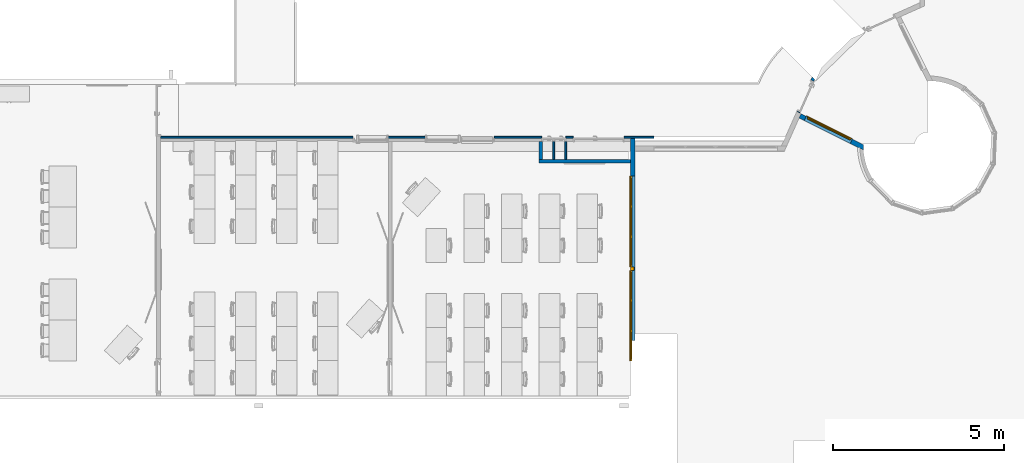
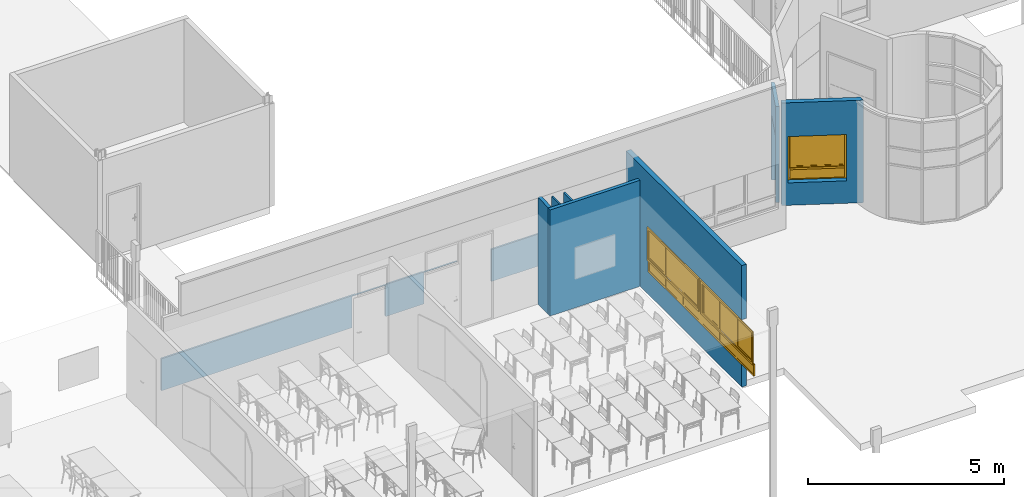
# One storey, part 21 of 44: 8 walls, 2 windows, 11 openings.
"""IFC2X3 building model written with IfcOpenShell, lengths in centimetres."""

from ifc_helpers import new_model, entity, si_unit, converted_unit, derived_unit, direction, frame, frame_2d, origin, origin_2d_with_axis, place, context, subcontext, project, spatial, polyline, circle_curve, parameter, trimmed, segment, composite_curve, rectangle, outline, extrude, clip, halfspace, faceted_brep, source, transform, mapped, material, layer, layer_set, layer_usage, type_object, type_shapes, element, fill, save


model = new_model("IFC2X3")

# Units and contexts
model_context = context("Model", 3, precision=0.001, world=origin(), true_north=direction((6.12303176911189e-17, 1.0)))
body_context = subcontext(model_context, "Body", "Model", "MODEL_VIEW")
ifc_project = project(units=[si_unit("LENGTHUNIT", "METRE", prefix="CENTI"), si_unit("AREAUNIT", "SQUARE_METRE"), si_unit("VOLUMEUNIT", "CUBIC_METRE"), converted_unit("PLANEANGLEUNIT", "DEGREE", entity("IfcRatioMeasure", 0.0174532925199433), si_unit("PLANEANGLEUNIT", "RADIAN"), dimensions=[0, 0, 0, 0, 0, 0, 0]), si_unit("MASSUNIT", "GRAM", prefix="KILO"), si_unit("TIMEUNIT", "SECOND"), si_unit("FREQUENCYUNIT", "HERTZ"), si_unit("THERMODYNAMICTEMPERATUREUNIT", "DEGREE_CELSIUS"), derived_unit("THERMALTRANSMITTANCEUNIT", [(si_unit("MASSUNIT", "GRAM", prefix="KILO"), 1), (si_unit("THERMODYNAMICTEMPERATUREUNIT", "KELVIN"), -1), (si_unit("TIMEUNIT", "SECOND"), -3)]), derived_unit("VOLUMETRICFLOWRATEUNIT", [(si_unit("LENGTHUNIT", "METRE"), 3), (si_unit("TIMEUNIT", "SECOND"), -1)]), si_unit("ELECTRICCURRENTUNIT", "AMPERE"), si_unit("ELECTRICVOLTAGEUNIT", "VOLT"), si_unit("POWERUNIT", "WATT"), si_unit("FORCEUNIT", "NEWTON", prefix="KILO"), si_unit("ILLUMINANCEUNIT", "LUX"), si_unit("LUMINOUSFLUXUNIT", "LUMEN"), si_unit("LUMINOUSINTENSITYUNIT", "CANDELA"), derived_unit("USERDEFINED", [(si_unit("MASSUNIT", "GRAM", prefix="KILO"), -1), (si_unit("LENGTHUNIT", "METRE"), -2), (si_unit("TIMEUNIT", "SECOND"), 3), (si_unit("LUMINOUSFLUXUNIT", "LUMEN"), 1)]), derived_unit("LINEARVELOCITYUNIT", [(si_unit("LENGTHUNIT", "METRE"), 1), (si_unit("TIMEUNIT", "SECOND"), -1)]), si_unit("PRESSUREUNIT", "PASCAL"), derived_unit("USERDEFINED", [(si_unit("LENGTHUNIT", "METRE"), -2), (si_unit("MASSUNIT", "GRAM", prefix="KILO"), 1), (si_unit("TIMEUNIT", "SECOND"), -2)])], contexts=[model_context])

# Site, building, storey
site_placement = place(None, frame((8.62739174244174, -249.285249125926, 0.0)))
site = spatial("IfcSite", under=ifc_project, at=site_placement, Name="Default", CompositionType="ELEMENT")
building_placement = place(site_placement, origin())
building = spatial("IfcBuilding", under=site, at=building_placement, CompositionType="ELEMENT")
storey_placement = place(building_placement, frame((0.0, 0.0, 343.0)))
storey = spatial("IfcBuildingStorey", under=building, at=storey_placement, Name="R+1", CompositionType="ELEMENT", Elevation=343.0)

# Wall, opening, window
ifc_material_1 = material(Name="Tôle/Doublage")
ifc_layer_1 = layer(ifc_material_1, 4.0)
ifc_material_2 = material(Name="Laine minérale")
ifc_layer_2 = layer(ifc_material_2, 8.0)
ifc_material_3 = material(Name="Plâtre")
ifc_layer_3 = layer(ifc_material_3, 2.0)
ifc_layer_set_1 = layer_set([ifc_layer_1, ifc_layer_2, ifc_layer_3], Name="Mur de base:MET 4 + ISO 8 + PLA 2")
wall_type_1 = type_object("IfcWallType", Name="Mur de base:MET 4 + ISO 8 + PLA 2", PredefinedType="STANDARD", material=ifc_layer_set_1)
wall_1_placement = place(storey_placement, frame((2181.90482780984, 775.0, 0.0), z_axis=(0.0, 0.0, 1.0), x_axis=(0.0, -1.0, 0.0)))
wall_1 = element("IfcWall", 1, at=wall_1_placement, inside=storey, type_object=wall_type_1, Name="Mur de base:MET 4 + ISO 8 + PLA 2", ObjectType="Mur de base:MET 4 + ISO 8 + PLA 2", context=body_context, shape_type="Brep", body=[
    faceted_brep([(111.019791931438, -7.0, 70.0), (111.019791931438, -7.0, 210.0), (591.019791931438, -7.0, 210.0), (591.019791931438, -7.0, 379.0), (0.0, -7.0, 379.0), (0.0, -7.0, 343.0), (0.0, -7.0, 0.0), (10.0, -7.0, 0.0), (62.0, -7.0, 0.0), (72.0, -7.0, 0.0), (591.019791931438, -7.0, 0.0), (591.019791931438, -7.0, 62.1808437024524), (591.019791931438, -7.0, 62.3222650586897), (591.019791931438, -7.0, 66.8934406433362), (591.019791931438, -7.0, 67.0), (591.019791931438, -7.0, 70.0), (111.019791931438, 7.0, 210.0), (111.019791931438, 7.0, 70.0), (591.019791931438, 7.0, 70.0), (591.019791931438, 7.0, 67.0), (591.019791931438, 7.0, 66.8934406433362), (591.019791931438, 7.0, 62.3222650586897), (591.019791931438, 7.0, 62.1808437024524), (591.019791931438, 7.0, 0.0), (37.0197919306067, 7.0, 0.0), (23.0197919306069, 7.0, 0.0), (0.0, 7.0, 0.0), (0.0, 7.0, 379.0), (591.019791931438, 7.0, 379.0), (591.019791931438, 7.0, 210.0)], [[[0, 1, 2, 3, 4, 5, 6, 7, 8, 9, 10, 11, 12, 13, 14, 15]], [[16, 17, 18, 19, 20, 21, 22, 23, 24, 25, 26, 27, 28, 29]], [[6, 26, 25, 24, 23, 10, 9, 8, 7]], [[27, 4, 3, 28]], [[15, 14, 13, 12, 11, 10, 23, 22, 21, 20, 19, 18]], [[0, 17, 16, 1]], [[1, 16, 29, 2]], [[17, 0, 15, 18]], [[6, 5, 4, 27, 26]], [[3, 2, 29, 28]]]),
])
opening_1_placement = place(wall_1_placement, frame((111.019791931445, -7.0, 70.0)))
opening_1 = element("IfcOpeningElement", 2, at=opening_1_placement, cuts=wall_1, Name="2x2S_90x115-F90x115-A_40:2x2S_90x115-F90x115-A_40:1", ObjectType="Opening", context=body_context, shape_type="SweptSolid", body=[
    extrude(rectangle(XDim=140.0, YDim=540.0, at=frame_2d((69.9999999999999, 270.0), x_axis=(1.0, 0.0))), frame((0.0, 0.0, 0.0), z_axis=(0.0, 1.0, 0.0), x_axis=(0.0, 0.0, 1.0)), (0.0, 0.0, 1.0), 14.0),
])
ifc_material_4 = material(Name="Verre")
window_style_1 = type_object("IfcWindowStyle", Name="2x2S_90x115-F90x115-A_40", ConstructionType="NOTDEFINED", OperationType="NOTDEFINED", ParameterTakesPrecedence=False, Sizeable=False, material=ifc_material_4)
shared_shape_1 = source(origin(), body_context, "Body", "SweptSolid", [
    extrude(rectangle(XDim=2.0, YDim=79.3333333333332, at=frame_2d((-4.44089209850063e-16, 0.0), x_axis=(1.0, 0.0))), frame((494.333333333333, 2.0, 6.0), z_axis=(0.0, 0.0, 1.0), x_axis=(0.0, 1.0, 0.0)), (0.0, 0.0, 1.0), 29.9999999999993),
    extrude(rectangle(XDim=2.0, YDim=79.3333333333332, at=frame_2d((-4.44089209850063e-16, 0.0), x_axis=(1.0, 0.0))), frame((45.6666666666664, 2.0, 6.0), z_axis=(0.0, 0.0, 1.0), x_axis=(0.0, 1.0, 0.0)), (0.0, 0.0, 1.0), 29.9999999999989),
    extrude(rectangle(XDim=2.0, YDim=82.3333333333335, at=frame_2d((-4.44089209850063e-16, 0.0), x_axis=(1.0, 0.0))), frame((132.5, 2.0, 6.0), z_axis=(0.0, 0.0, 1.0), x_axis=(0.0, 1.0, 0.0)), (0.0, 0.0, 1.0), 29.9999999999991),
    extrude(rectangle(XDim=2.0, YDim=79.3333333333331, at=frame_2d((-4.44089209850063e-16, 0.0), x_axis=(1.0, 0.0))), frame((219.333333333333, 2.0, 6.0), z_axis=(0.0, 0.0, 1.0), x_axis=(0.0, 1.0, 0.0)), (0.0, 0.0, 1.0), 29.9999999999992),
    extrude(rectangle(XDim=2.0, YDim=79.3333333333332, at=frame_2d((-4.44089209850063e-16, 0.0), x_axis=(1.0, 0.0))), frame((320.666666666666, 2.0, 6.0), z_axis=(0.0, 0.0, 1.0), x_axis=(0.0, 1.0, 0.0)), (0.0, 0.0, 1.0), 29.9999999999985),
    extrude(rectangle(XDim=2.0, YDim=82.3333333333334, at=frame_2d((-4.44089209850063e-16, 0.0), x_axis=(1.0, 0.0))), frame((407.5, 2.0, 6.0), z_axis=(0.0, 0.0, 1.0), x_axis=(0.0, 1.0, 0.0)), (0.0, 0.0, 1.0), 29.9999999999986),
    extrude(outline(polyline([(-132.5, -15.7499999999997), (-126.5, -15.7499999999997), (-126.5, 14.2499999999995), (-47.1666666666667, 14.2499999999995), (-47.1666666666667, -15.7499999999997), (-41.1666666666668, -15.7499999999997), (-41.1666666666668, 14.2499999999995), (41.1666666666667, 14.2499999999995), (41.1666666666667, -15.7499999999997), (47.1666666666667, -15.7499999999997), (47.1666666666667, 14.2499999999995), (126.5, 14.2499999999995), (126.5, -15.7499999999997), (132.5, -15.7499999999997), (132.5, 20.2500000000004), (-132.5, 20.2500000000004), (-132.5, -15.7499999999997)])), frame((407.5, 0.0, 20.2499999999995), z_axis=(0.0, 1.0, 0.0), x_axis=(1.0, 0.0, 0.0)), (0.0, 0.0, 1.0), 5.0),
    extrude(outline(polyline([(-132.5, -15.7499999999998), (-126.5, -15.7499999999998), (-126.5, 14.2499999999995), (-47.1666666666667, 14.2499999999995), (-47.1666666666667, -15.7499999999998), (-41.1666666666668, -15.7499999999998), (-41.1666666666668, 14.2499999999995), (41.1666666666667, 14.2499999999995), (41.1666666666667, -15.7499999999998), (47.1666666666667, -15.7499999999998), (47.1666666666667, 14.2499999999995), (126.5, 14.2499999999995), (126.5, -15.7499999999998), (132.5, -15.7499999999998), (132.5, 20.2500000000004), (-132.5, 20.2500000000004), (-132.5, -15.7499999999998)])), frame((132.5, 0.0, 20.2500000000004), z_axis=(0.0, 1.0, 0.0), x_axis=(1.0, 0.0, 0.0)), (0.0, 0.0, 1.0), 5.0),
    extrude(rectangle(XDim=10.0, YDim=10.0, at=origin_2d_with_axis()), frame((270.0, 5.0, 0.0), z_axis=(0.0, 0.0, 1.0), x_axis=(0.0, 1.0, 0.0)), (0.0, 0.0, 1.0), 140.0),
    extrude(rectangle(XDim=2.0, YDim=71.3333333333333, at=frame_2d((-4.44089209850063e-16, -2.8421709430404e-14), x_axis=(1.0, 0.0))), frame((494.333333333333, 2.0, 46.0), z_axis=(0.0, 0.0, 1.0), x_axis=(0.0, 1.0, 0.0)), (0.0, 0.0, 1.0), 83.9999999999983),
    extrude(rectangle(XDim=2.0, YDim=71.3333333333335, at=frame_2d((-4.44089209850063e-16, 0.0), x_axis=(1.0, 0.0))), frame((45.6666666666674, 2.0, 46.0), z_axis=(0.0, 0.0, 1.0), x_axis=(0.0, 1.0, 0.0)), (0.0, 0.0, 1.0), 83.9999999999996),
    extrude(rectangle(XDim=2.0, YDim=82.3333333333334, at=frame_2d((-4.44089209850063e-16, 1.4210854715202e-14), x_axis=(1.0, 0.0))), frame((132.5, 2.0, 42.0), z_axis=(0.0, 0.0, 1.0), x_axis=(0.0, 1.0, 0.0)), (0.0, 0.0, 1.0), 91.9999999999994),
    extrude(rectangle(XDim=2.0, YDim=71.3333333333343, at=frame_2d((-4.44089209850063e-16, 0.0), x_axis=(1.0, 0.0))), frame((219.333333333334, 2.0, 46.0), z_axis=(0.0, 0.0, 1.0), x_axis=(0.0, 1.0, 0.0)), (0.0, 0.0, 1.0), 83.9999999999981),
    extrude(rectangle(XDim=2.0, YDim=71.3333333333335, at=frame_2d((-4.44089209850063e-16, 0.0), x_axis=(1.0, 0.0))), frame((320.666666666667, 2.0, 46.0), z_axis=(0.0, 0.0, 1.0), x_axis=(0.0, 1.0, 0.0)), (0.0, 0.0, 1.0), 83.9999999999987),
    extrude(rectangle(XDim=2.0, YDim=82.3333333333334, at=frame_2d((-4.44089209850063e-16, 0.0), x_axis=(1.0, 0.0))), frame((407.5, 2.0, 42.0), z_axis=(0.0, 0.0, 1.0), x_axis=(0.0, 1.0, 0.0)), (0.0, 0.0, 1.0), 91.9999999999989),
    extrude(outline(polyline([(-46.0, -39.6666666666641), (46.0, -39.6666666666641), (46.0, 39.6666666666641), (-46.0, 39.6666666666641), (-46.0, -39.6666666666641)]), holes=[polyline([(42.0, -35.6666666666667), (-42.0, -35.6666666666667), (-42.0, 35.6666666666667), (42.0, 35.6666666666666), (42.0, -35.6666666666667)])]), frame((45.6666666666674, 0.0, 88.0), z_axis=(0.0, 1.0, 0.0), x_axis=(0.0, 0.0, -1.0)), (0.0, 0.0, 1.0), 4.0),
    extrude(outline(polyline([(-46.0, -39.6666666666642), (46.0, -39.6666666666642), (46.0, 39.6666666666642), (-46.0, 39.6666666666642), (-46.0, -39.6666666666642)]), holes=[polyline([(42.0, -35.6666666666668), (-42.0, -35.6666666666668), (-42.0, 35.6666666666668), (42.0, 35.6666666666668), (42.0, -35.6666666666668)])]), frame((219.333333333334, 0.0, 88.0), z_axis=(0.0, 1.0, 0.0), x_axis=(0.0, 0.0, -1.0)), (0.0, 0.0, 1.0), 4.0),
    extrude(outline(polyline([(-46.0, -39.6666666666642), (46.0, -39.6666666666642), (46.0, 39.6666666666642), (-46.0, 39.6666666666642), (-46.0, -39.6666666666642)]), holes=[polyline([(42.0, -35.6666666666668), (-42.0, -35.6666666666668), (-42.0, 35.6666666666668), (42.0, 35.6666666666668), (42.0, -35.6666666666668)])]), frame((320.666666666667, 0.0, 88.0), z_axis=(0.0, 1.0, 0.0), x_axis=(0.0, 0.0, -1.0)), (0.0, 0.0, 1.0), 4.0),
    extrude(outline(polyline([(-46.0, -39.6666666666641), (46.0, -39.6666666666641), (46.0, 39.6666666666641), (-46.0, 39.6666666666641), (-46.0, -39.6666666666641)]), holes=[polyline([(42.0, -35.6666666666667), (-42.0, -35.6666666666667), (-42.0, 35.6666666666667), (42.0, 35.6666666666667), (42.0, -35.6666666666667)])]), frame((494.333333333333, 0.0, 88.0), z_axis=(0.0, 1.0, 0.0), x_axis=(0.0, 0.0, -1.0)), (0.0, 0.0, 1.0), 4.0),
    extrude(rectangle(XDim=5.0, YDim=6.00000000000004, at=origin_2d_with_axis()), frame((451.666666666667, 2.5, 42.0), z_axis=(0.0, 0.0, 1.0), x_axis=(0.0, 1.0, 0.0)), (0.0, 0.0, 1.0), 91.9999999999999),
    extrude(rectangle(XDim=5.0, YDim=5.99999999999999, at=frame_2d((0.0, -2.70894418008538e-14), x_axis=(1.0, 0.0))), frame((88.3333333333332, 2.5, 42.0), z_axis=(0.0, 0.0, 1.0), x_axis=(0.0, 1.0, 0.0)), (0.0, 0.0, 1.0), 91.9999999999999),
    extrude(rectangle(XDim=5.0, YDim=5.99999999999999, at=origin_2d_with_axis()), frame((176.666666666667, 2.5, 42.0), z_axis=(0.0, 0.0, 1.0), x_axis=(0.0, 1.0, 0.0)), (0.0, 0.0, 1.0), 91.9999999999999),
    extrude(rectangle(XDim=5.0, YDim=5.99999999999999, at=origin_2d_with_axis()), frame((363.333333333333, 2.5, 42.0), z_axis=(0.0, 0.0, 1.0), x_axis=(0.0, 1.0, 0.0)), (0.0, 0.0, 1.0), 91.9999999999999),
    extrude(outline(polyline([(-52.0, -132.5), (52.0, -132.5), (52.0, 132.5), (-52.0, 132.5), (-52.0, -132.5)]), holes=[polyline([(46.0, -126.5), (-46.0, -126.5), (-46.0, 126.5), (46.0, 126.5), (46.0, -126.5)])]), frame((407.5, -3.0, 88.0), z_axis=(0.0, 1.0, 0.0), x_axis=(0.0, 0.0, -1.0)), (0.0, 0.0, 1.0), 3.0),
    extrude(outline(polyline([(-52.0, -132.5), (52.0, -132.5), (52.0, 132.5), (-52.0, 132.5), (-52.0, -132.5)]), holes=[polyline([(46.0, -126.5), (-46.0, -126.5), (-46.0, 126.5), (46.0, 126.5), (46.0, -126.5)])]), frame((132.5, -3.0, 88.0), z_axis=(0.0, 1.0, 0.0), x_axis=(0.0, 0.0, -1.0)), (0.0, 0.0, 1.0), 3.0),
])
type_shapes(window_style_1, [shared_shape_1])
window_1_placement = place(opening_1_placement, origin())
window_1 = element("IfcWindow", 3, at=window_1_placement, inside=storey, type_object=window_style_1, material=ifc_material_4, Name="2x2S_90x115-F90x115-A_40:2x2S_90x115-F90x115-A_40", ObjectType="2x2S_90x115-F90x115-A_40", OverallHeight=140.0, OverallWidth=540.0, context=body_context, shape_type="MappedRepresentation", body=[
    mapped(shared_shape_1, transform((0.0, 0.0, 0.0), scale=1.0)),
])
fill(opening_1, window_1)

ifc_layer_usage_1 = layer_usage(ifc_layer_set_1, "AXIS2", "POSITIVE", -7.0)
wall_2_placement = place(storey_placement, frame((2670.0787936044, 840.249389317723, 0.0), z_axis=(0.0, 0.0, 1.0), x_axis=(0.895203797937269, -0.445656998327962, 0.0)))
wall_2 = element("IfcWallStandardCase", 4, at=wall_2_placement, inside=storey, type_object=wall_type_1, material=ifc_layer_usage_1, Name="Mur de base:MET 4 + ISO 8 + PLA 2", ObjectType="Mur de base:MET 4 + ISO 8 + PLA 2", context=body_context, shape_type="SweptSolid", body=[
    extrude(outline(composite_curve([segment(trimmed(circle_curve(frame_2d((373.130210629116, 88.9739028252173), x_axis=(0.895203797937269, 0.445656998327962)), 188.999999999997), [parameter(179.23876926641)], [parameter(184.051914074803)], True, "PARAMETER"), False, "CONTINUOUS"), segment(polyline([(202.832590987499, 7.0), (0.0, 7.0)]), True, "CONTINUOUS"), segment(polyline([(0.0, 7.0), (0.602778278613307, -7.0)]), True, "CONTINUOUS"), segment(polyline([(0.602778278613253, -7.0), (194.250334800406, -7.0)]), True, "CONTINUOUS"), segment(polyline([(194.250334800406, -7.0), (210.311262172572, -7.0)]), True, "CONTINUOUS")], self_intersect=False)), origin(), (0.0, 0.0, 1.0), 320.0),
])
opening_2_placement = place(wall_2_placement, frame((167.488736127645, 7.0, 70.0)))
opening_2 = element("IfcOpeningElement", 5, at=opening_2_placement, cuts=wall_2, Name="S_150x115_A_40:S_150x115_A_40:1", ObjectType="Opening", context=body_context, shape_type="SweptSolid", body=[
    extrude(rectangle(XDim=144.5, YDim=150.0, at=frame_2d((72.25, 75.0), x_axis=(1.0, 0.0))), frame((0.0, 0.0, 0.0), z_axis=(0.0, -1.0, 0.0), x_axis=(0.0, 0.0, 1.0)), (0.0, 0.0, 1.0), 14.0),
])
window_style_2 = type_object("IfcWindowStyle", Name="S_150x115_A_40", ConstructionType="NOTDEFINED", OperationType="NOTDEFINED", ParameterTakesPrecedence=False, Sizeable=False, material=ifc_material_4)
shared_shape_2 = source(origin(), body_context, "Body", "SweptSolid", [
    extrude(rectangle(XDim=2.0, YDim=140.0, at=frame_2d((-4.44089209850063e-16, 0.0), x_axis=(1.0, 0.0))), frame((75.0, 2.0, 5.0), z_axis=(0.0, 0.0, 1.0), x_axis=(0.0, 1.0, 0.0)), (0.0, 0.0, 1.0), 29.9999999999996),
    extrude(rectangle(XDim=2.0, YDim=132.0, at=frame_2d((-4.44089209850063e-16, 0.0), x_axis=(1.0, 0.0))), frame((75.0, 2.0, 45.0), z_axis=(0.0, 0.0, 1.0), x_axis=(0.0, 1.0, 0.0)), (0.0, 0.0, 1.0), 90.4999999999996),
    extrude(outline(polyline([(-72.2500000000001, -75.0), (72.2500000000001, -75.0), (72.2500000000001, 75.0), (-72.2500000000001, 75.0), (-72.2500000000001, -75.0)]), holes=[polyline([(67.2500000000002, -70.0), (-67.2500000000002, -70.0), (-67.2500000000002, 70.0), (67.2500000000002, 70.0), (67.2500000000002, -70.0)])]), frame((75.0, -2.0, 72.2499999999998), z_axis=(0.0, 1.0, 0.0), x_axis=(0.0, 0.0, 1.0)), (0.0, 0.0, 1.0), 1.99999999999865),
    extrude(outline(polyline([(-49.2500000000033, -70.0), (49.2500000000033, -70.0), (49.2500000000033, 70.0), (-49.2500000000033, 70.0), (-49.2500000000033, -70.0)]), holes=[polyline([(45.2499999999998, -66.0), (-45.2499999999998, -66.0), (-45.2499999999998, 66.0), (45.2499999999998, 66.0), (45.2499999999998, -66.0)])]), frame((75.0, 0.0, 90.25), z_axis=(0.0, 1.0, 0.0), x_axis=(0.0, 0.0, -1.0)), (0.0, 0.0, 1.0), 4.0),
    extrude(rectangle(XDim=6.0, YDim=140.0, at=origin_2d_with_axis()), frame((75.0, 3.0, 35.0), z_axis=(0.0, 0.0, 1.0), x_axis=(0.0, 1.0, 0.0)), (0.0, 0.0, 1.0), 5.99999999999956),
])
type_shapes(window_style_2, [shared_shape_2])
window_2_placement = place(opening_2_placement, frame((0.0, 0.0, 0.0), z_axis=(0.0, 0.0, 1.0), x_axis=(-1.0, 0.0, 0.0)))
window_2 = element("IfcWindow", 6, at=window_2_placement, inside=storey, type_object=window_style_2, material=ifc_material_4, Name="S_150x115_A_40:S_150x115_A_40", ObjectType="S_150x115_A_40", OverallHeight=144.5, OverallWidth=150.0, context=body_context, shape_type="MappedRepresentation", body=[
    mapped(shared_shape_2, transform((0.0, 0.0, 0.0), scale=1.0)),
])
fill(opening_2, window_2)

# Wall, opening
ifc_layer_4 = layer(ifc_material_3, 10.0)
ifc_layer_set_2 = layer_set([ifc_layer_4], Name="Mur de base:Int. plâtre 100 mm")
ifc_layer_usage_2 = layer_usage(ifc_layer_set_2, "AXIS2", "NEGATIVE", 5.0)
wall_type_2 = type_object("IfcWallType", Name="Mur de base:Int. plâtre 100 mm", PredefinedType="NOTDEFINED")
wall_3_placement = place(storey_placement, frame((2665.04653262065, 850.333778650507, 0.0), z_axis=(0.0, 0.0, 1.0), x_axis=(0.406736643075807, 0.913545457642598, 0.0)))
wall_3 = element("IfcWallStandardCase", 7, at=wall_3_placement, inside=storey, type_object=wall_type_2, material=ifc_layer_usage_2, Name="Mur de base:Int. plâtre 100 mm", ObjectType="Mur de base:Int. plâtre 100 mm", context=body_context, shape_type="SweptSolid", body=[
    extrude(outline(polyline([(0.0, -5.0), (107.317260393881, -5.0), (111.155900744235, 5.0), (0.430555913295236, 5.0), (0.0, -5.0)])), origin(), (0.0, 0.0, 1.0), 300.0),
])
opening_3_placement = place(wall_3_placement, frame((101.333576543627, 5.0, 0.0)))
element("IfcOpeningElement", 8, at=opening_3_placement, cuts=wall_3, Name="Simple(R)_bois_Existant_mu:93 x 204 cm:1", ObjectType="Opening", context=body_context, shape_type="SweptSolid", body=[
    extrude(rectangle(XDim=206.999999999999, YDim=98.9999999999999, at=frame_2d((103.499999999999, 49.4999999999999), x_axis=(1.0, 0.0))), frame((0.0, 0.0, 0.0), z_axis=(0.0, -1.0, 0.0), x_axis=(0.0, 0.0, 1.0)), (0.0, 0.0, 1.0), 10.0),
])

# Walls
ifc_material_5 = material(Name="Plâtre EXISTANT")
ifc_layer_5 = layer(ifc_material_5, 10.0)
ifc_layer_set_3 = layer_set([ifc_layer_5], Name="Mur de base:PLA EXISTANT 10")
ifc_layer_usage_3 = layer_usage(ifc_layer_set_3, "AXIS2", "NEGATIVE", 5.0)
wall_type_3 = type_object("IfcWallType", Name="Mur de base:PLA EXISTANT 10", PredefinedType="STANDARD", material=ifc_layer_set_3)
wall_4_placement = place(storey_placement, frame((2174.90482780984, 708.0, 0.0), z_axis=(0.0, 0.0, 1.0), x_axis=(-1.0, 0.0, 0.0)))
element("IfcWallStandardCase", 9, at=wall_4_placement, inside=storey, type_object=wall_type_3, material=ifc_layer_usage_3, Name="Mur de base:PLA EXISTANT 10", ObjectType="Mur de base:PLA EXISTANT 10", context=body_context, shape_type="SweptSolid", body=[
    extrude(rectangle(XDim=265.999999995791, YDim=9.99999999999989, at=frame_2d((132.999999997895, 3.01980662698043e-14), x_axis=(-1.0, 0.0))), origin(), (0.0, 0.0, 1.0), 331.023483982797),
])
ifc_layer_usage_4 = layer_usage(ifc_layer_set_3, "AXIS2", "NEGATIVE", 5.0)
wall_5_placement = place(storey_placement, frame((1913.90482781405, 713.0, 0.0), z_axis=(0.0, 0.0, 1.0), x_axis=(0.0, 1.0, 0.0)))
element("IfcWallStandardCase", 10, at=wall_5_placement, inside=storey, type_object=wall_type_3, material=ifc_layer_usage_4, Name="Mur de base:PLA EXISTANT 10", ObjectType="Mur de base:PLA EXISTANT 10", context=body_context, shape_type="Clipping", body=[
    clip(extrude(rectangle(XDim=52.0000000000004, YDim=9.99999999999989, at=frame_2d((26.0000000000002, 0.0), x_axis=(-1.0, 0.0))), origin(), (0.0, 0.0, 1.0), 333.816951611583), halfspace(frame((0.0, -5.0, 331.913248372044), z_axis=(-0.0365851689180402, 0.0, 0.999330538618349), x_axis=(0.0, 1.0, 0.0)), False)),
])
ifc_layer_6 = layer(ifc_material_5, 5.0)
ifc_layer_set_4 = layer_set([ifc_layer_6], Name="Mur de base:PLA EXISTANT 5")
ifc_layer_usage_5 = layer_usage(ifc_layer_set_4, "AXIS2", "NEGATIVE", 2.5)
wall_type_4 = type_object("IfcWallType", Name="Mur de base:PLA EXISTANT 5", PredefinedType="STANDARD", material=ifc_layer_set_4)
wall_6_placement = place(storey_placement, frame((1951.40482781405, 713.0, 0.0), z_axis=(0.0, 0.0, 1.0), x_axis=(0.0, 1.0, 0.0)))
element("IfcWallStandardCase", 11, at=wall_6_placement, inside=storey, type_object=wall_type_4, material=ifc_layer_usage_5, Name="Mur de base:PLA EXISTANT 5", ObjectType="Mur de base:PLA EXISTANT 5", context=body_context, shape_type="SweptSolid", body=[
    extrude(rectangle(XDim=52.0000000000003, YDim=4.99999999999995, at=frame_2d((26.0000000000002, 1.08357767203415e-13), x_axis=(-1.0, 0.0))), origin(), (0.0, 0.0, 1.0), 322.000000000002),
])
ifc_layer_usage_6 = layer_usage(ifc_layer_set_4, "AXIS2", "NEGATIVE", 2.5)
wall_7_placement = place(storey_placement, frame((1986.40482780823, 713.0, 0.0), z_axis=(0.0, 0.0, 1.0), x_axis=(0.0, 1.0, 0.0)))
element("IfcWallStandardCase", 12, at=wall_7_placement, inside=storey, type_object=wall_type_4, material=ifc_layer_usage_6, Name="Mur de base:PLA EXISTANT 5", ObjectType="Mur de base:PLA EXISTANT 5", context=body_context, shape_type="SweptSolid", body=[
    extrude(rectangle(XDim=52.0000000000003, YDim=4.99999999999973, at=frame_2d((26.0000000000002, 0.0), x_axis=(-1.0, 0.0))), origin(), (0.0, 0.0, 1.0), 322.000000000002),
])

# Wall, openings
ifc_layer_7 = layer(ifc_material_2, 3.0)
ifc_material_6 = material(Name="Panneau de grandes particules orientées(1)")
ifc_layer_8 = layer(ifc_material_6, 2.0)
ifc_layer_set_5 = layer_set([ifc_layer_7, ifc_layer_8], Name="Mur de base:ACOUST panneaux fibres")
ifc_layer_usage_7 = layer_usage(ifc_layer_set_5, "AXIS2", "NEGATIVE", 2.5)
wall_type_5 = type_object("IfcWallType", Name="Mur de base:ACOUST panneaux fibres", PredefinedType="STANDARD", material=ifc_layer_set_5)
wall_8_placement = place(storey_placement, frame((2243.88031400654, 777.499999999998, 110.0), z_axis=(0.0, 0.0, 1.0), x_axis=(-1.0, 0.0, 0.0)))
wall_8 = element("IfcWallStandardCase", 13, at=wall_8_placement, inside=storey, type_object=wall_type_5, material=ifc_layer_usage_7, Name="Mur de base:ACOUST panneaux fibres", ObjectType="Mur de base:ACOUST panneaux fibres", context=body_context, shape_type="SweptSolid", body=[
    extrude(rectangle(XDim=1439.97484203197, YDim=4.99999999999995, at=frame_2d((719.987421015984, 4.44089209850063e-16), x_axis=(-1.0, 0.0))), origin(), (0.0, 0.0, 1.0), 100.0),
])
opening_4_placement = place(wall_8_placement, origin())
element("IfcOpeningElement", 14, at=opening_4_placement, cuts=wall_8, Name="Mur de base:ACOUST panneaux fibres", ObjectType="Opening", context=body_context, shape_type="SweptSolid", body=[
    extrude(rectangle(XDim=277.999999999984, YDim=100.0, at=origin_2d_with_axis()), frame((515.97548620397, -17.7400000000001, 29.0), z_axis=(0.0, 1.0, 0.0), x_axis=(0.0, 0.0, 1.0)), (0.0, 0.0, 1.0), 35.4800000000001),
])
opening_5_placement = place(wall_8_placement, origin())
element("IfcOpeningElement", 15, at=opening_5_placement, cuts=wall_8, Name="Mur de base:ACOUST panneaux fibres", ObjectType="Opening", context=body_context, shape_type="SweptSolid", body=[
    extrude(rectangle(XDim=69.4999999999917, YDim=102.0, at=frame_2d((2.16715534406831e-13, -5.32907051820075e-14), x_axis=(0.0, 1.0))), frame((616.975486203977, -17.7400000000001, 133.249999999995), z_axis=(0.0, 1.0, 0.0), x_axis=(-1.0, 0.0, 0.0)), (0.0, 0.0, 1.0), 35.4800000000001),
])
opening_6_placement = place(wall_8_placement, origin())
element("IfcOpeningElement", 16, at=opening_6_placement, cuts=wall_8, Name="Mur de base:ACOUST panneaux fibres", ObjectType="Opening", context=body_context, shape_type="SweptSolid", body=[
    extrude(rectangle(XDim=207.499999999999, YDim=100.0, at=frame_2d((1.10134124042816e-13, 0.0), x_axis=(0.0, 1.0))), frame((615.975486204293, -139.899999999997, -6.25000000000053), z_axis=(0.0, 1.0, 0.0), x_axis=(-1.0, 0.0, 0.0)), (0.0, 0.0, 1.0), 304.8),
])
opening_7_placement = place(wall_8_placement, origin())
element("IfcOpeningElement", 17, at=opening_7_placement, cuts=wall_8, Name="Mur de base:ACOUST panneaux fibres", ObjectType="Opening", context=body_context, shape_type="SweptSolid", body=[
    extrude(rectangle(XDim=207.499999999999, YDim=100.0, at=frame_2d((0.0, -1.10134124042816e-13), x_axis=(1.0, 0.0))), frame((828.450164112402, -139.899999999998, -6.25000000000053), z_axis=(0.0, 1.0, 0.0), x_axis=(0.0, 0.0, 1.0)), (0.0, 0.0, 1.0), 304.8),
])
opening_8_placement = place(wall_8_placement, origin())
element("IfcOpeningElement", 18, at=opening_8_placement, cuts=wall_8, Name="Mur de base:ACOUST panneaux fibres", ObjectType="Opening", context=body_context, shape_type="SweptSolid", body=[
    extrude(rectangle(XDim=206.999999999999, YDim=35.9999999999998, at=frame_2d((-1.08357767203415e-13, 4.9737991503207e-14), x_axis=(0.0, 1.0))), frame((309.975486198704, -149.899999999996, -6.50000000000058), z_axis=(0.0, 1.0, 0.0), x_axis=(-1.0, 0.0, 0.0)), (0.0, 0.0, 1.0), 304.8),
])
opening_9_placement = place(wall_8_placement, origin())
element("IfcOpeningElement", 19, at=opening_9_placement, cuts=wall_8, Name="Mur de base:ACOUST panneaux fibres", ObjectType="Opening", context=body_context, shape_type="SweptSolid", body=[
    extrude(rectangle(XDim=206.999999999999, YDim=36.0, at=frame_2d((-2.16715534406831e-13, 4.9737991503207e-14), x_axis=(0.0, 1.0))), frame((274.975486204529, -149.899999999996, -6.50000000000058), z_axis=(0.0, 1.0, 0.0), x_axis=(-1.0, 0.0, 0.0)), (0.0, 0.0, 1.0), 304.8),
])
opening_10_placement = place(wall_8_placement, origin())
element("IfcOpeningElement", 20, at=opening_10_placement, cuts=wall_8, Name="Mur de base:ACOUST panneaux fibres", ObjectType="Opening", context=body_context, shape_type="SweptSolid", body=[
    extrude(rectangle(XDim=206.999999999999, YDim=149.0, at=frame_2d((0.0, 0.0), x_axis=(0.0, 1.0))), frame((161.475486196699, -149.899999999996, -6.50000000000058), z_axis=(0.0, 1.0, 0.0), x_axis=(-1.0, 0.0, 0.0)), (0.0, 0.0, 1.0), 304.8),
])
opening_11_placement = place(wall_8_placement, origin())
element("IfcOpeningElement", 21, at=opening_11_placement, cuts=wall_8, Name="Mur de base:ACOUST panneaux fibres", ObjectType="Opening", context=body_context, shape_type="SweptSolid", body=[
    extrude(rectangle(XDim=69.4999999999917, YDim=91.9506441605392, at=frame_2d((-5.32907051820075e-14, 0.0), x_axis=(1.0, 0.0))), frame((820.950164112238, -17.7400000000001, 133.249999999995), z_axis=(0.0, 1.0, 0.0), x_axis=(0.0, 0.0, 1.0)), (0.0, 0.0, 1.0), 35.4800000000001),
])

save(model, "model.ifc")
